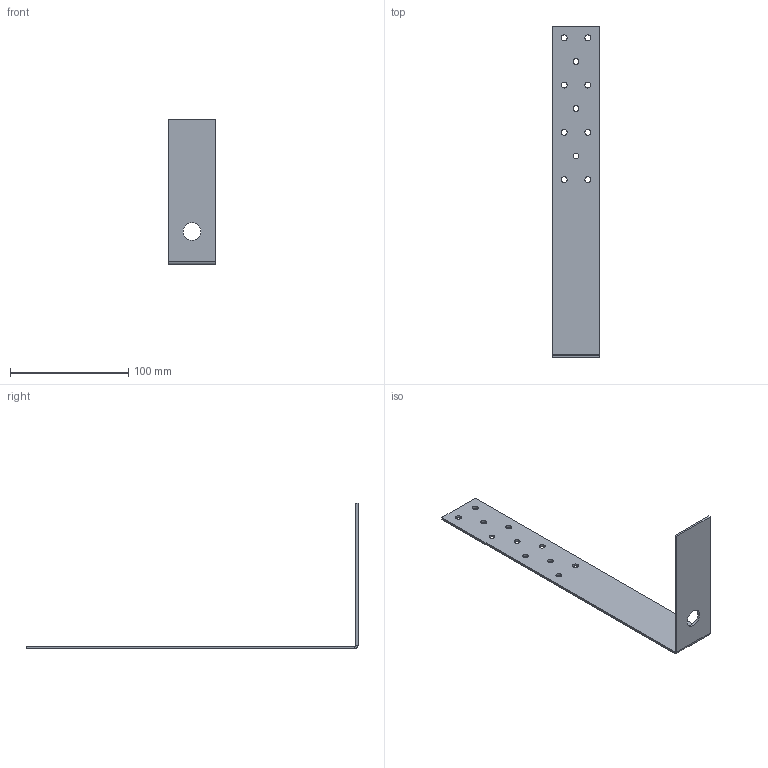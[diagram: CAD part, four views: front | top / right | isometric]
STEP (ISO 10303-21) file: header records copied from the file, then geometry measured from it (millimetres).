
FILE_DESCRIPTION (( 'STEP AP203' ), '1' );
FILE_NAME ('110305.STEP', '2020-01-20T10:55:53', ( '' ), ( '' ), 'SwSTEP 2.0', 'SolidWorks 2013', '' );
FILE_SCHEMA (( 'CONFIG_CONTROL_DESIGN' ));
Length unit declared in the file: millimetre
Products named in the file (1): 110305
Bounding box: 40 x 281 x 123 mm (x, y, z)
Volume: 31315.1 mm3; surface area: 33520 mm2
Topology: 1 solids, 1 shells, 38 faces, 100 edges, 64 vertices
Faces by surface type: cylinder 26, plane 12
Entity records: 1317 total; most frequent: DIRECTION 230, CARTESIAN_POINT 203, ORIENTED_EDGE 200, EDGE_CURVE 100, AXIS2_PLACEMENT_3D 91, VERTEX_POINT 64, EDGE_LOOP 62, CIRCLE 52
